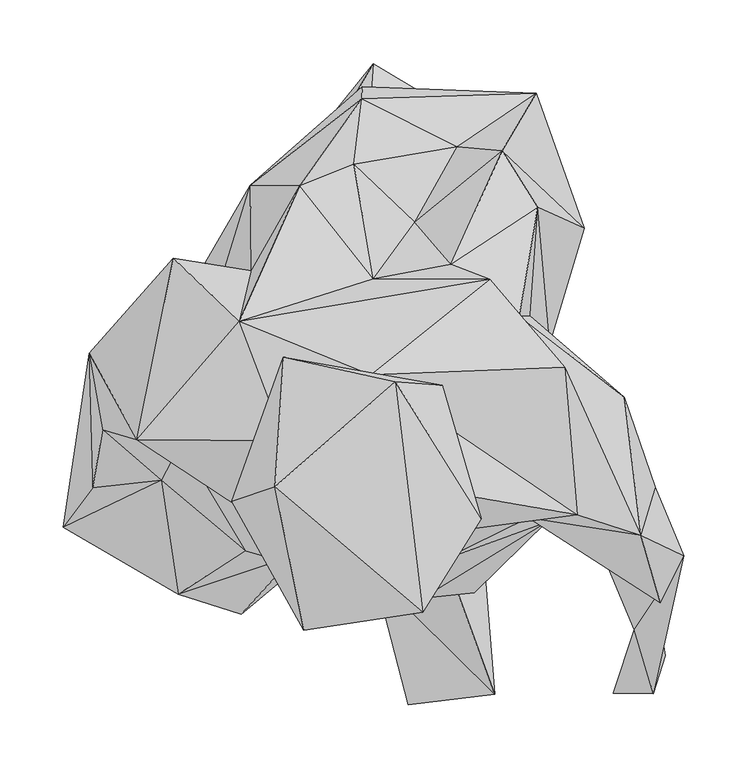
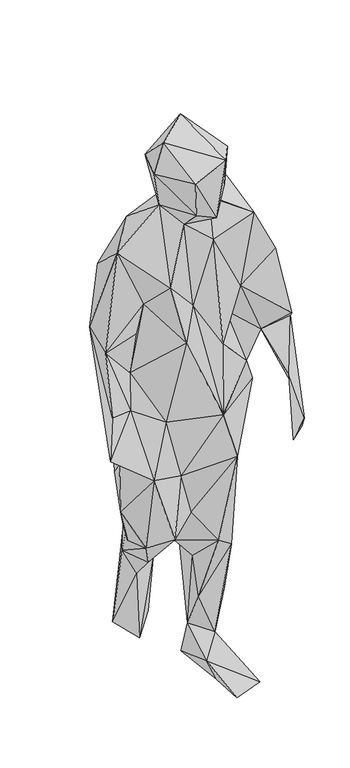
"""IFC4 building model written with IfcOpenShell, lengths in millimetres: geographic element geometry, Enscape AssetDefinition - Adrian 001 Walking : Enscape AssetDefinition - Adrian 001 Walking."""

from ifc_helpers import new_model, si_unit, origin, place, context, project, spatial, faceted_brep, source, transform, mapped, element, save


def geographic_element_529ebcd5(model_context):
    return source(origin(), model_context, "Body", "Brep", [
        faceted_brep([(-168.6879992, 14.3320002, 616.2149906), (-188.8010055, -49.656, 543.2329774), (-175.8809984, -20.8620001, 659.9209905), (-92.5640017, -9.5520001, 518.9819932), (-147.2309977, 11.7279999, 454.9399912), (-136.9879991, -120.7719967, 660.5520248), (-150.9220004, -106.9089994, 457.3050141), (-164.5029932, -39.2820016, 445.340991), (-115.8780009, 141.1660016, 863.3670211), (-97.6300016, 93.0709988, 681.5429926), (0.238, 109.4470024, 684.0109825), (-30.638, 153.6750048, 770.186007), (17.1649996, 18.9260002, 587.8450274), (148.3930051, 33.7079987, 657.5559974), (134.8329931, 105.5499986, 787.5450253), (-37.8680006, 230.5070013, 781.7040086), (-80.4030001, 202.0830065, 898.2700109), (8.4520001, 280.2250087, 827.1300197), (147.0039934, 192.2390014, 776.6150236), (124.8560026, 262.4610066, 814.9070144), (7.8600002, 270.4820037, 971.8570113), (145.6470042, 274.9080062, 913.9580131), (183.8070005, 168.1360006, 936.9570017), (118.7060028, 229.4120044, 1092.8930044), (156.329006, 77.3679987, 920.4419851), (146.9119936, 184.6790016, 1114.9940491), (83.2009986, 232.7349931, 1002.7470589), (78.3350021, 139.843002, 1210.8900547), (49.6429987, 172.9169935, 1070.4129934), (140.7410055, 99.0569964, 1059.8349571), (132.318005, 98.8679975, 1214.715004), (17.0310009, 128.2799989, 1223.1220007), (108.8469997, 127.9450059, 1298.8770008), (1.394, 218.8279927, 1104.1309834), (-41.2140004, 201.8370032, 1127.5060177), (-88.831, 94.8359966, 1292.0249701), (15.1049998, 52.6209995, 1381.8850517), (168.2710052, 58.2729988, 1346.116066), (177.9939979, -57.9690002, 1303.6110401), (228.3550054, -74.1339996, 1191.8109655), (139.3100023, -60.651999, 1103.0429602), (56.1980009, -74.3959993, 1276.7750025), (65.9930035, -38.6330001, 1374.6709824), (70.1619983, -94.521001, 974.9869704), (0.652, -70.7089975, 1098.4779596), (-9.7120004, -44.4599986, 1326.1530399), (71.4970008, 44.2910008, 1485.3219986), (74.4939968, -95.8430022, 1447.6360083), (30.3939991, -131.8639964, 1383.5259676), (34.1529995, 46.9430014, 1581.2320709), (102.3029983, -61.3979995, 1526.4539719), (-54.2749986, 66.2039965, 1481.0209274), (55.8990017, -135.2539957, 1546.6259718), (-38.1250009, -149.5320052, 1517.9879665), (-21.9659992, -126.594007, 1404.8420191), (-61.0230006, -35.8810015, 1579.2350769), (-52.9799983, 0.255, 1370.9880114), (-94.6459994, -47.5349985, 1504.9920082), (-141.2329972, 144.4000006, 1142.5210238), (-79.4880018, 134.581998, 1110.787034), (-169.7369963, 1.1390001, 1268.3010101), (-154.9369991, 110.665001, 1027.6470184), (-112.7759963, 96.7890024, 982.4180007), (-207.4919939, 69.5109963, 1023.3340263), (-166.7280048, 41.7880006, 841.2219882), (-227.9050052, -67.8000003, 715.5960202), (-196.9259977, 9.1289999, 977.6200056), (-204.5370042, -36.6120003, 816.5569901), (-150.4569948, -30.7480004, 816.9530034), (-96.9569981, -1.319, 1094.7810411), (-121.3020012, -5.5010002, 1017.475009), (-135.1500005, -1.635, 905.2270055), (-84.0519965, -86.3149986, 793.1810021), (-87.2090012, -136.4739984, 477.5289893), (-44.4790013, -89.9339989, 623.7720251), (55.6639992, -123.9050031, 789.1889811), (-34.9389985, -100.7020026, 1018.0610418), (-61.8720017, -69.9049979, 1171.0929871), (153.6539942, -63.9709979, 879.8199892), (125.6369948, -13.0799999, 1005.480051), (190.4709935, -70.667997, 962.7979994), (193.3099926, -24.9320008, 789.6450162), (159.9140018, 1.054, 996.2030053), (96.735999, -119.7730005, 649.0460038), (182.7040017, -16.4739992, 713.1720185), (239.684999, -36.536999, 965.0920033), (215.3680027, 34.5810018, 1100.2299786), (240.418002, -124.1559982, 826.0210156), (262.0599866, -90.4200003, 989.898026), (243.8230067, -127.6309937, 1025.851965), (223.1200039, -149.0069926, 863.492012), (237.9609942, -199.3920058, 761.146009), (206.438005, -199.1129965, 708.1530094), (247.6419955, -169.4509983, 715.1200175), (135.7939988, -34.8379984, 529.0160179), (91.5329978, 29.5989998, 577.2050023), (107.0249975, -72.7579966, 359.7759902), (67.4170032, 28.8079996, 450.7679939), (112.1490002, 15.7130007, 307.0040047), (-22.7390006, -53.6930002, 515.7939792), (0.542, 2.0959999, 398.4709978), (42.0029983, 23.2289992, 188.1629974), (114.4149974, -26.5510008, 202.1020055), (80.2759975, 6.8569998, 117.4319983), (15.3559996, -18.3669999, 125.8679926), (64.7159964, -66.9559985, 111.7990017), (96.555002, 0.462, 12.4430005), (26.0959994, 32.021001, 8.5000005), (48.2450016, -111.9929999, 414.0639901), (23.1560003, -58.6180016, 225.6470025), (-11.4080003, 1.073, 367.8829968), (14.1040003, -44.5600003, 340.6429887), (-0.927, -64.4849986, 485.397011), (-76.3449967, 12.7630001, 317.4299896), (21.094, 156.0840011, 222.4680036), (-83.7809965, 125.7490069, 286.3540053), (-30.5560008, 148.2750028, 187.3449981), (-70.4339966, 126.7500073, 354.32899), (-41.7309999, 198.2759982, 230.2819937), (-82.4809968, 174.5759994, 45.3110002), (-42.2430001, 114.4800037, 20.544), (17.1160009, 298.4350026, 199.9440044), (8.0279997, 173.375994, 285.4990065), (61.1319989, 271.9019949, 194.1819936), (6.8669999, 157.893002, 57.0399985), (17.9750007, -106.2719971, 65.2579963), (44.5890017, -207.9789937, 9.1070002), (46.7160009, -103.6899984, 0.221), (113.123998, -199.872002, 27.4010003)], [[[0, 1, 2]], [[1, 3, 4]], [[2, 1, 5]], [[6, 1, 7]], [[7, 1, 4]], [[6, 5, 1]], [[1, 0, 3]], [[8, 0, 2]], [[0, 9, 3]], [[8, 9, 0]], [[3, 9, 10]], [[11, 10, 9]], [[9, 8, 11]], [[12, 10, 13]], [[3, 10, 12]], [[10, 11, 14]], [[10, 14, 13]], [[8, 15, 11]], [[11, 15, 14]], [[16, 15, 8]], [[15, 16, 17]], [[14, 15, 18]], [[17, 19, 15]], [[15, 19, 18]], [[16, 20, 17]], [[17, 20, 21]], [[19, 17, 21]], [[22, 19, 21]], [[18, 19, 22]], [[18, 22, 14]], [[21, 23, 22]], [[14, 22, 24]], [[24, 22, 25]], [[22, 23, 25]], [[26, 23, 21]], [[20, 26, 21]], [[27, 25, 23]], [[28, 27, 23]], [[28, 23, 26]], [[25, 29, 24]], [[30, 25, 27]], [[30, 29, 25]], [[28, 31, 27]], [[27, 31, 32]], [[27, 32, 30]], [[33, 31, 28]], [[28, 26, 33]], [[20, 33, 26]], [[34, 31, 33]], [[20, 34, 33]], [[35, 31, 34]], [[32, 31, 35]], [[32, 35, 36]], [[32, 36, 37]], [[30, 32, 37]], [[38, 37, 36]], [[39, 37, 38]], [[39, 30, 37]], [[40, 38, 41]], [[38, 42, 41]], [[38, 36, 42]], [[40, 39, 38]], [[40, 41, 43]], [[44, 41, 45]], [[41, 42, 45]], [[44, 43, 41]], [[42, 46, 47]], [[48, 45, 42]], [[48, 42, 47]], [[42, 36, 46]], [[46, 49, 50]], [[47, 46, 50]], [[36, 51, 46]], [[51, 49, 46]], [[48, 47, 52]], [[47, 50, 52]], [[53, 54, 48]], [[45, 48, 54]], [[53, 48, 52]], [[52, 55, 53]], [[52, 49, 55]], [[50, 49, 52]], [[51, 55, 49]], [[56, 51, 36]], [[57, 55, 51]], [[57, 51, 56]], [[36, 35, 56]], [[58, 35, 59]], [[34, 59, 35]], [[56, 35, 60]], [[60, 35, 58]], [[61, 59, 62]], [[34, 16, 59]], [[62, 59, 16]], [[61, 58, 59]], [[58, 61, 63]], [[60, 58, 63]], [[63, 61, 62]], [[16, 8, 62]], [[63, 62, 64]], [[64, 62, 8]], [[34, 20, 16]], [[63, 64, 65]], [[65, 64, 2]], [[64, 8, 2]], [[66, 63, 67]], [[67, 63, 65]], [[60, 63, 66]], [[5, 68, 65]], [[68, 67, 65]], [[5, 65, 2]], [[68, 66, 67]], [[69, 66, 70]], [[71, 70, 66]], [[68, 71, 66]], [[69, 60, 66]], [[5, 72, 68]], [[72, 71, 68]], [[73, 5, 6]], [[74, 5, 73]], [[74, 72, 5]], [[75, 72, 74]], [[76, 71, 72]], [[72, 75, 76]], [[69, 70, 71]], [[69, 71, 76]], [[76, 44, 77]], [[76, 77, 69]], [[76, 75, 44]], [[44, 45, 77]], [[43, 44, 75]], [[77, 56, 60]], [[77, 60, 69]], [[45, 56, 77]], [[54, 56, 45]], [[54, 57, 56]], [[53, 57, 54]], [[55, 57, 53]], [[78, 79, 43]], [[78, 43, 75]], [[43, 79, 40]], [[40, 79, 80]], [[80, 79, 78]], [[81, 24, 78]], [[78, 24, 82]], [[81, 78, 75]], [[78, 82, 80]], [[83, 75, 74]], [[83, 81, 75]], [[84, 81, 83]], [[84, 14, 81]], [[81, 14, 24]], [[24, 29, 82]], [[80, 82, 85]], [[82, 29, 86]], [[85, 82, 86]], [[29, 30, 86]], [[85, 86, 39]], [[86, 30, 39]], [[85, 87, 80]], [[88, 87, 85]], [[88, 85, 39]], [[89, 39, 40]], [[88, 39, 89]], [[88, 90, 91]], [[88, 89, 80]], [[91, 87, 88]], [[90, 88, 80]], [[80, 87, 90]], [[80, 89, 40]], [[90, 92, 91]], [[90, 87, 92]], [[92, 87, 93]], [[91, 93, 87]], [[93, 91, 92]], [[84, 13, 14]], [[94, 95, 13]], [[84, 94, 13]], [[12, 13, 95]], [[94, 84, 83]], [[96, 94, 83]], [[94, 97, 95]], [[96, 98, 94]], [[97, 94, 98]], [[12, 95, 97]], [[99, 12, 100]], [[100, 12, 97]], [[99, 3, 12]], [[100, 97, 101]], [[101, 97, 98]], [[102, 98, 96]], [[103, 101, 98]], [[102, 103, 98]], [[104, 101, 103]], [[100, 101, 104]], [[103, 102, 105]], [[105, 106, 103]], [[107, 104, 103]], [[107, 103, 106]], [[102, 96, 105]], [[96, 108, 109]], [[105, 96, 109]], [[96, 83, 108]], [[110, 111, 108]], [[108, 112, 110]], [[109, 108, 111]], [[83, 112, 108]], [[105, 109, 104]], [[111, 104, 109]], [[110, 100, 111]], [[111, 100, 104]], [[110, 113, 114]], [[113, 110, 73]], [[112, 73, 110]], [[110, 114, 100]], [[112, 74, 73]], [[112, 83, 74]], [[6, 113, 73]], [[6, 115, 113]], [[113, 116, 114]], [[113, 115, 116]], [[4, 115, 6]], [[7, 4, 6]], [[117, 115, 4]], [[115, 118, 116]], [[118, 115, 117]], [[116, 119, 120]], [[116, 118, 119]], [[120, 114, 116]], [[119, 118, 121]], [[121, 118, 122]], [[118, 117, 122]], [[117, 4, 3]], [[3, 122, 117]], [[114, 123, 122]], [[100, 122, 3]], [[114, 122, 100]], [[122, 123, 121]], [[119, 121, 123]], [[119, 124, 120]], [[119, 123, 124]], [[124, 114, 120]], [[124, 123, 114]], [[3, 99, 100]], [[104, 125, 105]], [[104, 107, 125]], [[126, 125, 127]], [[107, 127, 125]], [[128, 105, 125]], [[126, 128, 125]], [[106, 105, 128]], [[126, 106, 128]], [[126, 127, 106]], [[127, 107, 106]]]),
    ])


if __name__ == "__main__":
    model = new_model("IFC4")
    model_context = context("Model", 3, world=origin())
    ifc_project = project(units=[si_unit("LENGTHUNIT", "METRE", prefix="MILLI")], contexts=[model_context])
    site = spatial("IfcSite", under=ifc_project)
    building = spatial("IfcBuilding", under=site)
    placement = place(None, origin())
    geographic_element_shape = geographic_element_529ebcd5(model_context)
    element("IfcGeographicElement", 1, ObjectType="Enscape AssetDefinition - Adrian 001 Walking : Enscape AssetDefinition - Adrian 001 Walking", at=placement, inside=building, context=model_context, shape_type="MappedRepresentation", body=[
        mapped(geographic_element_shape, transform((0.0, 0.0, 0.0), x_axis=(1.0, 0.0, 0.0), y_axis=(0.0, 1.0, 0.0), z_axis=(0.0, 0.0, 1.0))),
    ])
    save(model, "model.ifc")
